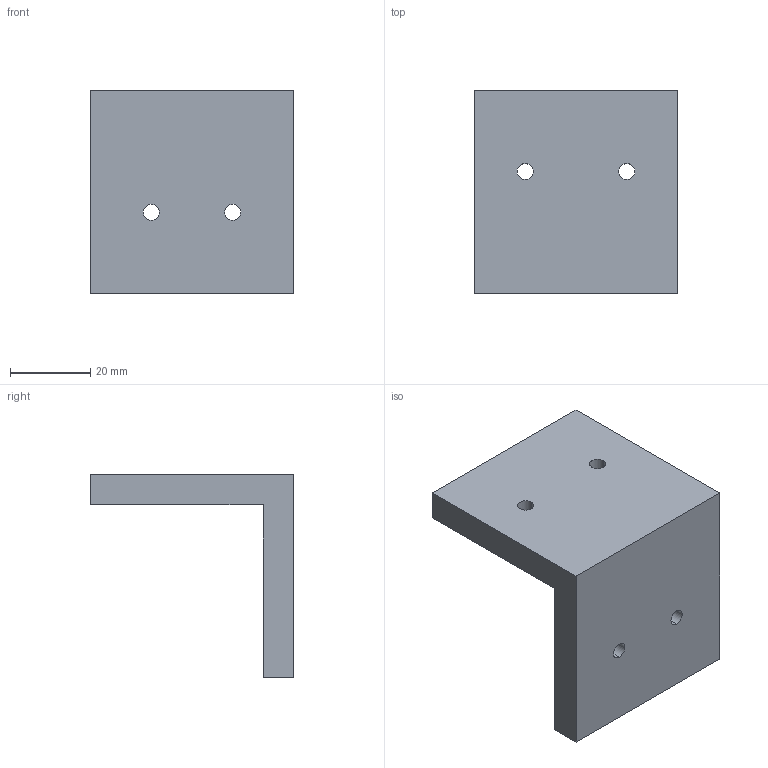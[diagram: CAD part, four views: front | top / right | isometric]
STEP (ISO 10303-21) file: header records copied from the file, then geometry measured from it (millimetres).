
FILE_DESCRIPTION (( 'STEP AP214' ), '1' );
FILE_NAME ('Escuadra.STEP', '2019-05-12T02:00:36', ( '' ), ( '' ), 'SwSTEP 2.0', 'SolidWorks 2018', '' );
FILE_SCHEMA (( 'AUTOMOTIVE_DESIGN' ));
Length unit declared in the file: inch
Products named in the file (1): Escuadra
Bounding box: 50.8 x 50.8 x 50.8 mm (x, y, z)
Volume: 35996.3 mm3; surface area: 12037.3 mm2
Topology: 1 solids, 1 shells, 16 faces, 42 edges, 28 vertices
Faces by surface type: cylinder 8, plane 8
Entity records: 558 total; most frequent: DIRECTION 92, CARTESIAN_POINT 87, ORIENTED_EDGE 84, EDGE_CURVE 42, AXIS2_PLACEMENT_3D 33, VERTEX_POINT 28, LINE 26, VECTOR 26
